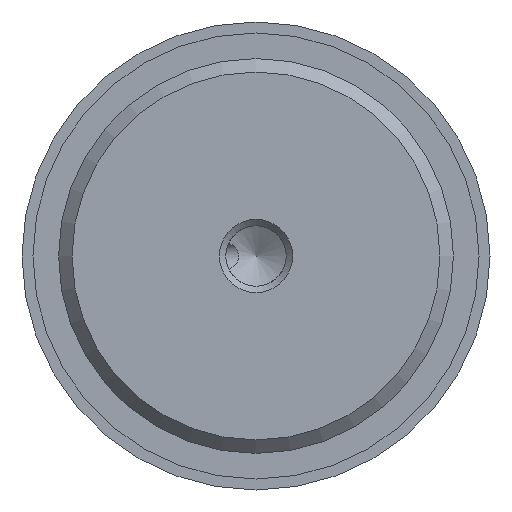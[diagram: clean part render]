
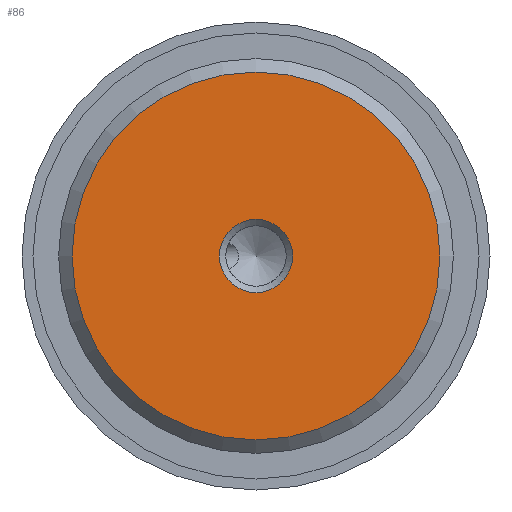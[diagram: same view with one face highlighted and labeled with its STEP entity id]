
A CAD part, front view. The second image highlights one B-rep face of the part: STEP entity #86.
In plain terms, the highlighted planar face has unit normal (0, -1, 0).
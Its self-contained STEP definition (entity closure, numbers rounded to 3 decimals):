
#86 = ADVANCED_FACE( '', ( #139, #140 ), #141, .F. );
#139 = FACE_BOUND( '', #226, .T. );
#140 = FACE_OUTER_BOUND( '', #227, .T. );
#141 = PLANE( '', #228 );
#226 = EDGE_LOOP( '', ( #382 ) );
#227 = EDGE_LOOP( '', ( #383 ) );
#228 = AXIS2_PLACEMENT_3D( '', #384, #385, #386 );
#382 = ORIENTED_EDGE( '', *, *, #582, .F. );
#383 = ORIENTED_EDGE( '', *, *, #584, .T. );
#384 = CARTESIAN_POINT( '', ( 12.58, 0., 0. ) );
#385 = DIRECTION( '', ( 0., 1., 0. ) );
#386 = DIRECTION( '', ( 0., 0., 1. ) );
#582 = EDGE_CURVE( '', #683, #683, #684, .T. );
#584 = EDGE_CURVE( '', #687, #687, #688, .T. );
#683 = VERTEX_POINT( '', #928 );
#684 = CIRCLE( '', #929, 2.5 );
#687 = VERTEX_POINT( '', #932 );
#688 = CIRCLE( '', #933, 12.58 );
#928 = CARTESIAN_POINT( '', ( 2.5, 0., 0. ) );
#929 = AXIS2_PLACEMENT_3D( '', #1036, #1037, #1038 );
#932 = CARTESIAN_POINT( '', ( 0., 0., -12.58 ) );
#933 = AXIS2_PLACEMENT_3D( '', #1042, #1043, #1044 );
#1036 = CARTESIAN_POINT( '', ( 0., 0., 0. ) );
#1037 = DIRECTION( '', ( 0., -1., 0. ) );
#1038 = DIRECTION( '', ( 1., 0., 0. ) );
#1042 = CARTESIAN_POINT( '', ( 0., 0., 0. ) );
#1043 = DIRECTION( '', ( 0., -1., 0. ) );
#1044 = DIRECTION( '', ( 0., 0., -1. ) );
